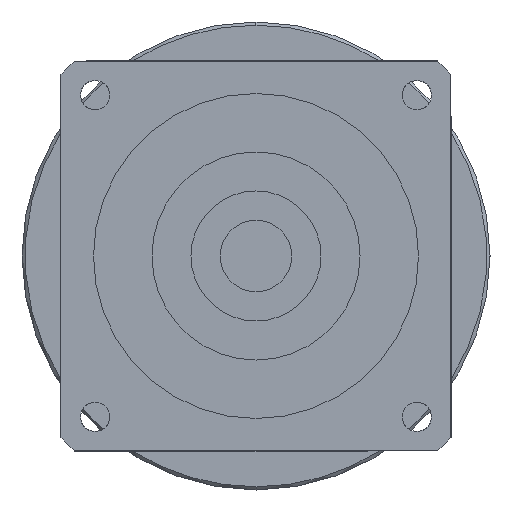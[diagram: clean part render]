
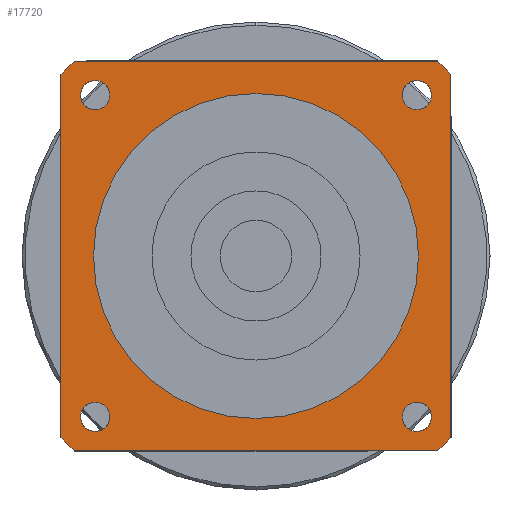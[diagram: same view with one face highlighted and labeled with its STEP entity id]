
A CAD part, left-side view. The second image highlights one B-rep face of the part: STEP entity #17720.
In plain terms, the highlighted planar face has unit normal (-1, 0, 0) as drawn and (0, 0, -1) by its records, which use the part's own axes.
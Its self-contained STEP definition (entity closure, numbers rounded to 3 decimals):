
#12210=CARTESIAN_POINT('',(-30.,27.946,-97.5));
#12220=VERTEX_POINT('',#12210);
#12400=CARTESIAN_POINT('',(-30.,-27.946,-97.5));
#12410=VERTEX_POINT('',#12400);
#12440=CARTESIAN_POINT('',(-30.,30.,-97.5));
#12450=DIRECTION('',(0.,-1.,0.));
#12460=VECTOR('',#12450,1000.);
#12470=LINE('',#12440,#12460);
#12480=EDGE_CURVE('',#12220,#12410,#12470,.T.);
#12640=CARTESIAN_POINT('',(27.946,30.,-97.5));
#12650=VERTEX_POINT('',#12640);
#12680=CARTESIAN_POINT('',(0.,0.,
-97.5));
#12690=DIRECTION('',(0.,0.,1.));
#12700=DIRECTION('',(0.,-1.,0.));
#12710=AXIS2_PLACEMENT_3D('',#12680,#12690,#12700);
#12720=CIRCLE('',#12710,41.);
#12730=CARTESIAN_POINT('',(30.,27.946,-97.5));
#12740=VERTEX_POINT('',#12730);
#12750=EDGE_CURVE('',#12740,#12650,#12720,.T.);
#15260=CARTESIAN_POINT('',(-27.946,-30.,-97.5));
#15270=VERTEX_POINT('',#15260);
#15300=CARTESIAN_POINT('',(0.,0.,
-97.5));
#15310=DIRECTION('',(0.,0.,1.));
#15320=DIRECTION('',(0.,-1.,0.));
#15330=AXIS2_PLACEMENT_3D('',#15300,#15310,#15320);
#15340=CIRCLE('',#15330,41.);
#15350=EDGE_CURVE('',#12410,#15270,#15340,.T.);
#15840=CARTESIAN_POINT('',(27.946,-30.,-97.5));
#15850=VERTEX_POINT('',#15840);
#15930=CARTESIAN_POINT('',(30.,-27.946,-97.5));
#15940=VERTEX_POINT('',#15930);
#15970=CARTESIAN_POINT('',(0.,0.,
-97.5));
#15980=DIRECTION('',(0.,0.,1.));
#15990=DIRECTION('',(0.,-1.,0.));
#16000=AXIS2_PLACEMENT_3D('',#15970,#15980,#15990);
#16010=CIRCLE('',#16000,41.);
#16020=EDGE_CURVE('',#15850,#15940,#16010,.T.);
#16160=CARTESIAN_POINT('',(22.499,24.749,-97.5));
#16170=VERTEX_POINT('',#16160);
#16340=CARTESIAN_POINT('',(26.999,24.749,-97.5));
#16350=VERTEX_POINT('',#16340);
#16380=CARTESIAN_POINT('',(24.749,24.749,-97.5));
#16390=DIRECTION('',(0.,0.,-1.));
#16400=DIRECTION('',(0.,1.,0.));
#16410=AXIS2_PLACEMENT_3D('',#16380,#16390,#16400);
#16420=CIRCLE('',#16410,2.25);
#16430=CARTESIAN_POINT('',(24.749,26.999,-97.5));
#16440=VERTEX_POINT('',#16430);
#16450=EDGE_CURVE('',#16440,#16350,#16420,.T.);
#16470=EDGE_CURVE('',#16170,#16440,#16420,.T.);
#16520=CARTESIAN_POINT('',(-30.,30.,-97.5));
#16530=DIRECTION('',(0.,0.,1.));
#16540=DIRECTION('',(-1.,0.,0.));
#16550=AXIS2_PLACEMENT_3D('',#16520,#16530,#16540);
#16560=PLANE('',#16550);
#16570=CARTESIAN_POINT('',(24.749,-24.749,-97.5));
#16580=DIRECTION('',(0.,0.,-1.));
#16590=DIRECTION('',(1.,0.,0.));
#16600=AXIS2_PLACEMENT_3D('',#16570,#16580,#16590);
#16610=CIRCLE('',#16600,2.25);
#16620=CARTESIAN_POINT('',(26.999,-24.749,-97.5));
#16630=VERTEX_POINT('',#16620);
#16640=CARTESIAN_POINT('',(24.749,-26.999,-97.5));
#16650=VERTEX_POINT('',#16640);
#16660=EDGE_CURVE('',#16630,#16650,#16610,.T.);
#16670=ORIENTED_EDGE('',*,*,#16660,.F.);
#16680=CARTESIAN_POINT('',(24.749,-22.499,-97.5));
#16690=VERTEX_POINT('',#16680);
#16700=EDGE_CURVE('',#16650,#16690,#16610,.T.);
#16710=ORIENTED_EDGE('',*,*,#16700,.F.);
#16720=EDGE_CURVE('',#16690,#16630,#16610,.T.);
#16730=ORIENTED_EDGE('',*,*,#16720,.F.);
#16740=EDGE_LOOP('',(#16730,#16710,#16670));
#16750=FACE_BOUND('',#16740,.T.);
#16760=ORIENTED_EDGE('',*,*,#16450,.F.);
#16770=EDGE_CURVE('',#16350,#16170,#16420,.T.);
#16780=ORIENTED_EDGE('',*,*,#16770,.F.);
#16790=ORIENTED_EDGE('',*,*,#16470,.F.);
#16800=EDGE_LOOP('',(#16790,#16780,#16760));
#16810=FACE_BOUND('',#16800,.T.);
#16820=CARTESIAN_POINT('',(-24.749,24.749,-97.5));
#16830=DIRECTION('',(0.,0.,-1.));
#16840=DIRECTION('',(-1.,0.,0.));
#16850=AXIS2_PLACEMENT_3D('',#16820,#16830,#16840);
#16860=CIRCLE('',#16850,2.25);
#16870=CARTESIAN_POINT('',(-26.999,24.749,-97.5));
#16880=VERTEX_POINT('',#16870);
#16890=CARTESIAN_POINT('',(-24.749,26.999,-97.5));
#16900=VERTEX_POINT('',#16890);
#16910=EDGE_CURVE('',#16880,#16900,#16860,.T.);
#16920=ORIENTED_EDGE('',*,*,#16910,.F.);
#16930=CARTESIAN_POINT('',(-24.749,22.499,-97.5));
#16940=VERTEX_POINT('',#16930);
#16950=EDGE_CURVE('',#16900,#16940,#16860,.T.);
#16960=ORIENTED_EDGE('',*,*,#16950,.F.);
#16970=EDGE_CURVE('',#16940,#16880,#16860,.T.);
#16980=ORIENTED_EDGE('',*,*,#16970,.F.);
#16990=EDGE_LOOP('',(#16980,#16960,#16920));
#17000=FACE_BOUND('',#16990,.T.);
#17010=CARTESIAN_POINT('',(-24.749,-24.749,-97.5));
#17020=DIRECTION('',(0.,0.,-1.));
#17030=DIRECTION('',(0.,-1.,0.));
#17040=AXIS2_PLACEMENT_3D('',#17010,#17020,#17030);
#17050=CIRCLE('',#17040,2.25);
#17060=CARTESIAN_POINT('',(-24.749,-26.999,-97.5));
#17070=VERTEX_POINT('',#17060);
#17080=CARTESIAN_POINT('',(-26.999,-24.749,-97.5));
#17090=VERTEX_POINT('',#17080);
#17100=EDGE_CURVE('',#17070,#17090,#17050,.T.);
#17110=ORIENTED_EDGE('',*,*,#17100,.F.);
#17120=CARTESIAN_POINT('',(-22.499,-24.749,-97.5));
#17130=VERTEX_POINT('',#17120);
#17140=EDGE_CURVE('',#17090,#17130,#17050,.T.);
#17150=ORIENTED_EDGE('',*,*,#17140,.F.);
#17160=EDGE_CURVE('',#17130,#17070,#17050,.T.);
#17170=ORIENTED_EDGE('',*,*,#17160,.F.);
#17180=EDGE_LOOP('',(#17170,#17150,#17110));
#17190=FACE_BOUND('',#17180,.T.);
#17200=ORIENTED_EDGE('',*,*,#15350,.F.);
#17210=CARTESIAN_POINT('',(-30.,-30.,-97.5));
#17220=DIRECTION('',(1.,0.,0.));
#17230=VECTOR('',#17220,1000.);
#17240=LINE('',#17210,#17230);
#17250=EDGE_CURVE('',#15270,#15850,#17240,.T.);
#17260=ORIENTED_EDGE('',*,*,#17250,.F.);
#17270=ORIENTED_EDGE('',*,*,#16020,.F.);
#17280=CARTESIAN_POINT('',(30.,-30.,-97.5));
#17290=DIRECTION('',(0.,1.,0.));
#17300=VECTOR('',#17290,1000.);
#17310=LINE('',#17280,#17300);
#17320=EDGE_CURVE('',#15940,#12740,#17310,.T.);
#17330=ORIENTED_EDGE('',*,*,#17320,.F.);
#17340=ORIENTED_EDGE('',*,*,#12750,.F.);
#17350=CARTESIAN_POINT('',(30.,30.,-97.5));
#17360=DIRECTION('',(-1.,0.,0.));
#17370=VECTOR('',#17360,1000.);
#17380=LINE('',#17350,#17370);
#17390=CARTESIAN_POINT('',(-27.946,30.,-97.5));
#17400=VERTEX_POINT('',#17390);
#17410=EDGE_CURVE('',#12650,#17400,#17380,.T.);
#17420=ORIENTED_EDGE('',*,*,#17410,.F.);
#17430=CARTESIAN_POINT('',(0.,0.,
-97.5));
#17440=DIRECTION('',(0.,0.,1.));
#17450=DIRECTION('',(0.,-1.,0.));
#17460=AXIS2_PLACEMENT_3D('',#17430,#17440,#17450);
#17470=CIRCLE('',#17460,41.);
#17480=EDGE_CURVE('',#17400,#12220,#17470,.T.);
#17490=ORIENTED_EDGE('',*,*,#17480,.F.);
#17500=ORIENTED_EDGE('',*,*,#12480,.F.);
#17510=EDGE_LOOP('',(#17500,#17490,#17420,#17340,#17330,#17270,#17260,
#17200));
#17520=FACE_OUTER_BOUND('',#17510,.T.);
#17530=CARTESIAN_POINT('',(0.,0.,
-97.5));
#17540=DIRECTION('',(0.,0.,1.));
#17550=DIRECTION('',(0.,-1.,0.));
#17560=AXIS2_PLACEMENT_3D('',#17530,#17540,#17550);
#17570=CIRCLE('',#17560,25.);
#17580=CARTESIAN_POINT('',(25.,0.,-97.5));
#17590=VERTEX_POINT('',#17580);
#17600=CARTESIAN_POINT('',(-25.,0.,-97.5));
#17610=VERTEX_POINT('',#17600);
#17620=EDGE_CURVE('',#17590,#17610,#17570,.T.);
#17630=ORIENTED_EDGE('',*,*,#17620,.T.);
#17640=CARTESIAN_POINT('',(0.,-25.,-97.5));
#17650=VERTEX_POINT('',#17640);
#17660=EDGE_CURVE('',#17650,#17590,#17570,.T.);
#17670=ORIENTED_EDGE('',*,*,#17660,.T.);
#17680=EDGE_CURVE('',#17610,#17650,#17570,.T.);
#17690=ORIENTED_EDGE('',*,*,#17680,.T.);
#17700=EDGE_LOOP('',(#17690,#17670,#17630));
#17710=FACE_BOUND('',#17700,.T.);
#17720=ADVANCED_FACE('',(#16750,#16810,#17000,#17190,#17520,#17710),
#16560,.F.);
